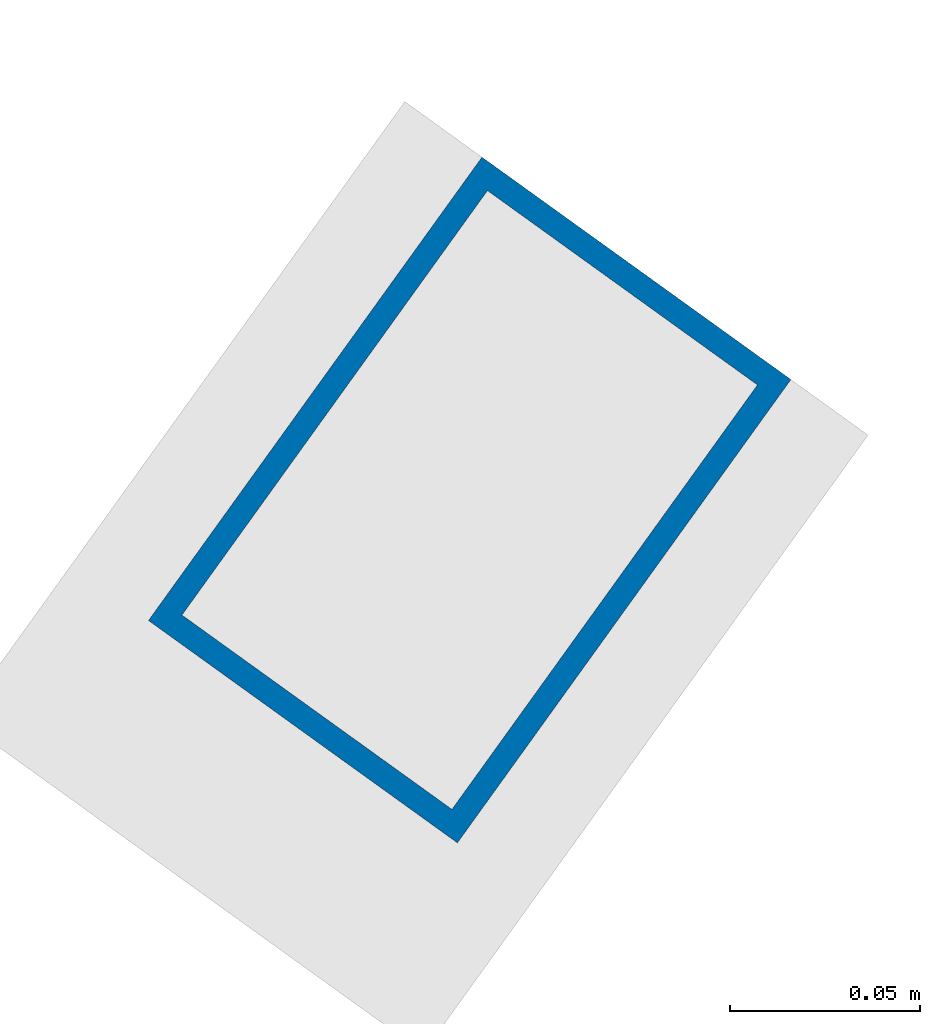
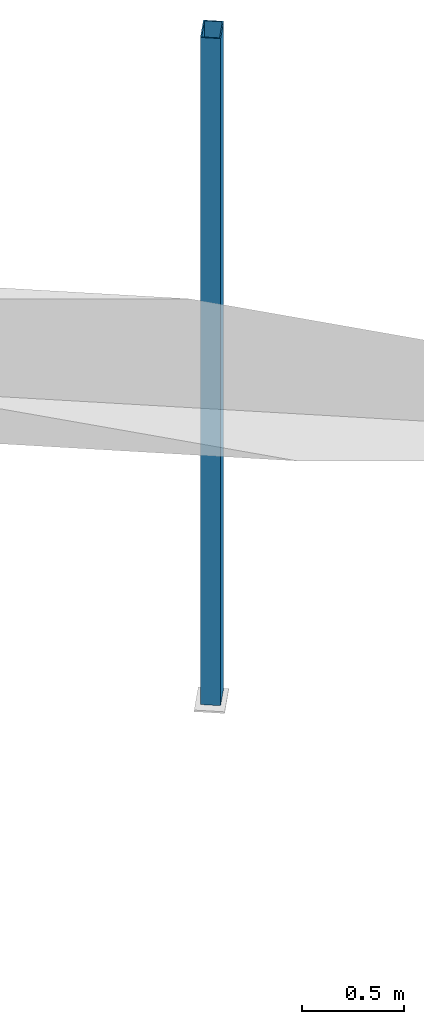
# One storey, part 2 of 4: 1 column.
"""IFC2X3 building model written with IfcOpenShell, lengths in millimetres."""

import ifcopenshell
import ifcopenshell.guid

model = None  # the IFC model being written
_history = None  # IfcOwnerHistory: only IFC2X3 demands one
_inside = {}  # id of a spatial element -> (the spatial element, [elements in it])
_under = {}  # id of a project, library or spatial element -> (it, [spatial elements below it])
_declared = {}  # id of a project -> (the project, [libraries it declares])
_typed = {}  # id of a type object -> (the type object, [elements of that type])
_made_of = {}  # id of a material, layer set ... -> (it, [elements and type objects made of it])


def new_model(schema):
    """Start an empty IFC model of exactly this schema.

    Asked for "IFC4X3", IfcOpenShell would pick the latest addendum, in which some entities
    have other attributes; the version numbers below select the first issue.
    IFC2X3 requires an IfcOwnerHistory on every rooted entity: one is made here for all.
    """
    global model, _history
    if schema == "IFC4X3":
        model = ifcopenshell.file(schema_version=(4, 3, 0, 0))
    else:
        model = ifcopenshell.file(schema=schema)
    _inside.clear()
    _under.clear()
    _declared.clear()
    _typed.clear()
    _made_of.clear()
    _history = None
    if model.schema == "IFC2X3":
        org = make("IfcOrganization", Name="unknown")
        user = make(
            "IfcPersonAndOrganization",
            ThePerson=make("IfcPerson", FamilyName="unknown"),
            TheOrganization=org,
        )
        app = make(
            "IfcApplication",
            ApplicationDeveloper=org,
            Version="unknown",
            ApplicationFullName="unknown",
            ApplicationIdentifier="unknown",
        )
        _history = make(
            "IfcOwnerHistory",
            OwningUser=user,
            OwningApplication=app,
            ChangeAction="ADDED",
            CreationDate=0,
        )
    return model


def make(cls, **values):
    """One entity of the class cls with the attributes given. An attribute that is None is left unset."""
    return model.create_entity(
        cls, **{name: value for name, value in values.items() if value is not None}
    )


def entity(cls, *values):
    """Any entity or typed value of the class cls, its attributes in the order of the schema. None: left unset."""
    e = model.create_entity(cls)
    for i, value in enumerate(values):
        if value is not None:
            e[i] = value
    return e


def rooted(cls, **values):
    """An entity with a GlobalId (a new one), such as an element, a storey or a relation."""
    return make(cls, GlobalId=ifcopenshell.guid.new(), OwnerHistory=_history, **values)


def si_unit(unit_type, name, prefix=None):
    """IfcSIUnit, for example si_unit("LENGTHUNIT", "METRE", prefix="MILLI")."""
    return make("IfcSIUnit", UnitType=unit_type, Prefix=prefix, Name=name)


def converted_unit(unit_type, name, factor, base, dimensions=None, offset=None):
    """IfcConversionBasedUnit, such as the inch: factor (a typed value) times the base unit."""
    return make(
        "IfcConversionBasedUnit"
        if offset is None
        else "IfcConversionBasedUnitWithOffset",
        ConversionOffset=offset,
        Dimensions=None
        if dimensions is None
        else entity("IfcDimensionalExponents", *dimensions),
        UnitType=unit_type,
        Name=name,
        ConversionFactor=make(
            "IfcMeasureWithUnit", ValueComponent=factor, UnitComponent=base
        ),
    )


def derived_unit(unit_type, elements):
    """IfcDerivedUnit: a product of units, each with its exponent."""
    return make(
        "IfcDerivedUnit",
        Elements=[
            make("IfcDerivedUnitElement", Unit=unit, Exponent=power)
            for unit, power in elements
        ],
        UnitType=unit_type,
    )


def assignment(units):
    """IfcUnitAssignment: the units of a project."""
    return None if units is None else make("IfcUnitAssignment", Units=units)


def point(xyz):
    """IfcCartesianPoint."""
    return None if xyz is None else make("IfcCartesianPoint", Coordinates=xyz)


def direction(xyz):
    """IfcDirection."""
    return None if xyz is None else make("IfcDirection", DirectionRatios=xyz)


def frame(location, z_axis=None, x_axis=None):
    """IfcAxis2Placement3D, a coordinate frame: its origin and axes. An axis left out is left unset."""
    return make(
        "IfcAxis2Placement3D",
        Location=point(location),
        Axis=direction(z_axis),
        RefDirection=direction(x_axis),
    )


def origin():
    """The frame at (0, 0, 0) with its axes left unset."""
    return frame((0.0, 0.0, 0.0))


def origin_with_axes():
    """The frame at (0, 0, 0) with the z axis (0, 0, 1) and the x axis (1, 0, 0) written out."""
    return frame((0.0, 0.0, 0.0), z_axis=(0.0, 0.0, 1.0), x_axis=(1.0, 0.0, 0.0))


def place(relative_to, where):
    """IfcLocalPlacement: puts the frame where relative to a parent placement (None: the world)."""
    return make(
        "IfcLocalPlacement", PlacementRelTo=relative_to, RelativePlacement=where
    )


def context(
    kind, dimensions, precision=None, world=None, true_north=None, identifier=None
):
    """IfcGeometricRepresentationContext, for example the 3D "Model" context."""
    return make(
        "IfcGeometricRepresentationContext",
        ContextIdentifier=identifier,
        ContextType=kind,
        CoordinateSpaceDimension=dimensions,
        Precision=precision,
        WorldCoordinateSystem=world,
        TrueNorth=true_north,
    )


def subcontext(parent, identifier, kind, view, scale=None):
    """IfcGeometricRepresentationSubContext, for example "Body" below "Model"."""
    return make(
        "IfcGeometricRepresentationSubContext",
        ContextIdentifier=identifier,
        ContextType=kind,
        ParentContext=parent,
        TargetScale=scale,
        TargetView=view,
    )


def project(units=None, contexts=None):
    """IfcProject with its units and contexts."""
    return rooted(
        "IfcProject",
        Name="project",
        RepresentationContexts=contexts,
        UnitsInContext=assignment(units),
    )


def spatial(cls, under=None, at=None, **own):
    """A site, building, storey or space (cls), placed at a placement, below another one or the project."""
    s = rooted(cls, ObjectPlacement=at, **own)
    if under is not None:
        _under.setdefault(under.id(), (under, []))[1].append(s)
    return s


def polyline(points):
    """IfcPolyline through the points."""
    return make("IfcPolyline", Points=[point(p) for p in points])


def outline(outer, holes=None, kind="AREA"):
    """IfcArbitraryClosedProfileDef: a profile drawn as a closed curve; with holes, ...WithVoids."""
    if holes is None:
        return make("IfcArbitraryClosedProfileDef", ProfileType=kind, OuterCurve=outer)
    return make(
        "IfcArbitraryProfileDefWithVoids",
        ProfileType=kind,
        OuterCurve=outer,
        InnerCurves=holes,
    )


def extrude(swept, where, along, depth):
    """IfcExtrudedAreaSolid: the profile swept, set in the frame where, extruded along a direction by depth."""
    return make(
        "IfcExtrudedAreaSolid",
        SweptArea=swept,
        Position=where,
        ExtrudedDirection=direction(along),
        Depth=depth,
    )


def shape(context_of_items, identifier, shape_type, items):
    """IfcShapeRepresentation: the items that make up one representation, for example the "Body"."""
    return make(
        "IfcShapeRepresentation",
        ContextOfItems=context_of_items,
        RepresentationIdentifier=identifier,
        RepresentationType=shape_type,
        Items=items,
    )


def made_of(thing, what):
    """Note that an element or type object is made of a material, layer set ...; save() writes the relation."""
    if what is not None:
        _made_of.setdefault(what.id(), (what, []))[1].append(thing)
    return thing


def type_object(cls, material=None, **own):
    """A type object (cls), such as IfcWallType, which elements share."""
    return made_of(rooted(cls, **own), material)


def element(
    cls,
    number,
    at=None,
    inside=None,
    cuts=None,
    type_object=None,
    material=None,
    context=None,
    identifier="Body",
    shape_type=None,
    held_by="IfcProductDefinitionShape",
    body=None,
    shapes=None,
    **own,
):
    """One element of the class cls, such as IfcWall. Its Tag is "e" and its number.

    at: its placement. inside: the storey or other place that contains it. cuts: it is an
    opening in that element (IfcRelVoidsElement). A single representation is given by context,
    identifier, shape_type and body (its items); several are given by shapes. held_by: the class
    of the entity that holds the representations. save() writes the other relations.
    """
    e = rooted(cls, Tag="e%d" % number, ObjectPlacement=at, **own)
    if body is not None:
        shapes = [shape(context, identifier, shape_type, body)]
    if shapes is not None:
        e.Representation = make(held_by, Representations=shapes)
    if inside is not None:
        _inside.setdefault(inside.id(), (inside, []))[1].append(e)
    if cuts is not None:
        rooted(
            "IfcRelVoidsElement", RelatingBuildingElement=cuts, RelatedOpeningElement=e
        )
    if type_object is not None:
        _typed.setdefault(type_object.id(), (type_object, []))[1].append(e)
    return made_of(e, material)


def aggregate(whole, parts):
    """IfcRelAggregates: a whole, such as a stair, and the parts it consists of."""
    return rooted("IfcRelAggregates", RelatingObject=whole, RelatedObjects=parts)


def save(model, path):
    """Write the relations noted so far, then the file.

    IfcRelAggregates (storeys below a building ...), IfcRelContainedInSpatialStructure (elements
    in a storey), IfcRelDefinesByType, IfcRelAssociatesMaterial and IfcRelDeclares: one each for
    every whole, place, type object, material and project.
    """
    for whole, parts in _under.values():
        aggregate(whole, parts)
    for where, things in _inside.values():
        rooted(
            "IfcRelContainedInSpatialStructure",
            RelatedElements=things,
            RelatingStructure=where,
        )
    for kind, things in _typed.values():
        rooted("IfcRelDefinesByType", RelatedObjects=things, RelatingType=kind)
    for what, things in _made_of.values():
        rooted("IfcRelAssociatesMaterial", RelatedObjects=things, RelatingMaterial=what)
    for by, libraries in _declared.values():
        rooted("IfcRelDeclares", RelatingContext=by, RelatedDefinitions=libraries)
    model.write(path)


model = new_model("IFC2X3")

# Units and contexts
model_context = context("Model", 3, precision=0.01, world=origin(), true_north=direction((6.12323399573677e-17, 1.0)))
plan_context = context("Plan", 3, precision=1e-05, world=origin_with_axes())
body_context = subcontext(model_context, "Body", "Model", "MODEL_VIEW")
ifc_project = project(units=[converted_unit("PLANEANGLEUNIT", "DEGREE", entity("IfcPositiveLengthMeasure", 0.0174532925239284), si_unit("PLANEANGLEUNIT", "RADIAN"), dimensions=[0, 0, 0, 0, 0, 0, 0]), si_unit("AREAUNIT", "SQUARE_METRE"), si_unit("LENGTHUNIT", "METRE", prefix="MILLI"), si_unit("MASSUNIT", "GRAM", prefix="KILO"), si_unit("POWERUNIT", "WATT"), si_unit("PRESSUREUNIT", "PASCAL", prefix="KILO"), si_unit("FORCEUNIT", "NEWTON", prefix="KILO"), si_unit("ELECTRICVOLTAGEUNIT", "VOLT"), si_unit("ELECTRICCURRENTUNIT", "AMPERE"), si_unit("THERMODYNAMICTEMPERATUREUNIT", "DEGREE_CELSIUS"), si_unit("TIMEUNIT", "SECOND"), si_unit("VOLUMEUNIT", "CUBIC_METRE"), derived_unit("LINEARVELOCITYUNIT", [(si_unit("LENGTHUNIT", "METRE"), 1), (si_unit("TIMEUNIT", "SECOND"), -1)]), derived_unit("VOLUMETRICFLOWRATEUNIT", [(si_unit("VOLUMEUNIT", "CUBIC_METRE"), 1), (si_unit("TIMEUNIT", "SECOND"), -1)]), derived_unit("THERMALTRANSMITTANCEUNIT", [(si_unit("POWERUNIT", "WATT"), 1), (si_unit("THERMODYNAMICTEMPERATUREUNIT", "KELVIN"), -1), (si_unit("AREAUNIT", "SQUARE_METRE"), -1)]), derived_unit("SOUNDPRESSUREUNIT", [(si_unit("PRESSUREUNIT", "PASCAL"), 1)])], contexts=[model_context, plan_context])

# Site, building, storey
site_placement = place(None, frame((5.09380697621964e-08, 5.80416781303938e-08, 0.0), z_axis=(0.0, 0.0, 1.0), x_axis=(-0.160806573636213, 0.986985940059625, 0.0)))
site = spatial("IfcSite", under=ifc_project, at=site_placement, Name="Default", CompositionType="ELEMENT")
building_placement = place(site_placement, frame((0.0, 0.0, 0.0), z_axis=(0.0, 0.0, 1.0), x_axis=(1.0, -2.77555756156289e-17, 0.0)))
building = spatial("IfcBuilding", under=site, at=building_placement, CompositionType="ELEMENT")
storey_placement = place(building_placement, frame((0.0, 0.0, 55500.0), z_axis=(0.0, 0.0, 1.0), x_axis=(1.0, -2.77555756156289e-17, 0.0)))
storey = spatial("IfcBuildingStorey", under=building, at=storey_placement, Name="H02-Nivå F-3,5 m", CompositionType="ELEMENT", Elevation=55500.0)

# Column
column_type = type_object("IfcColumnType", Name="RHS150*100*6.3", PredefinedType="NOTDEFINED")
column_placement = place(storey_placement, frame((0.0, 0.0, 0.0), z_axis=(0.0, 0.0, 1.0), x_axis=(1.0, -2.77555756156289e-17, 0.0)))
element("IfcColumn", 1, at=column_placement, inside=storey, type_object=column_type, Name="STÅLSØYLE", ObjectType="RHS150*100*6.3", context=body_context, shape_type="SweptSolid", body=[
    extrude(outline(polyline([(-74.9999999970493, -50.0), (75.0, -50.0), (74.9999999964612, 49.9999999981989), (-75.0, 50.0), (-74.9999999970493, -50.0)]), holes=[polyline([(-68.6999998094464, -43.6999998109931), (-68.6999998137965, 43.6999998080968), (68.6999998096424, 43.6999998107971), (68.6999998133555, -43.6999998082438), (-68.6999998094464, -43.6999998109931)])]), frame((1014973.38344774, -394839.356978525, -27.0), z_axis=(0.0, 0.0, 1.0), x_axis=(-0.707109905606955, 0.707103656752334, 0.0)), (0.0, 0.0, 1.0), 3985.00038699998),
])

save(model, "model.ifc")
